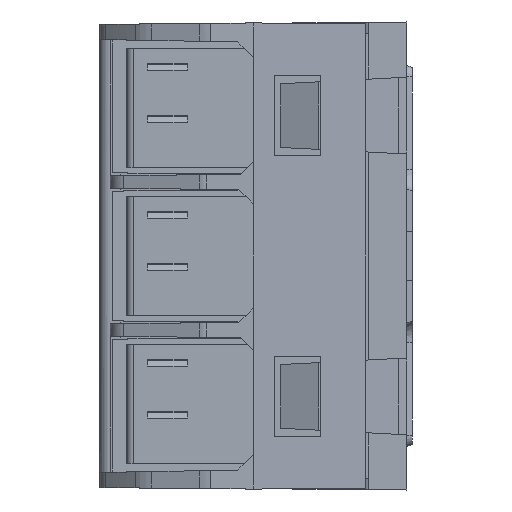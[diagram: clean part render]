
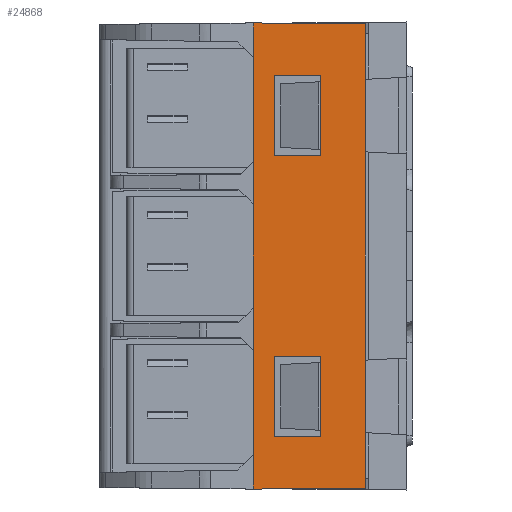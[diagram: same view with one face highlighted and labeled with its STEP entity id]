
A CAD part, left-side view. The second image highlights one B-rep face of the part: STEP entity #24868.
In plain terms, the highlighted planar face has unit normal (-1, -0.009, 0).
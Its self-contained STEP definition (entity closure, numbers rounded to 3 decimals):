
#1700=LINE('',#38494,#4517);
#1705=LINE('',#38503,#4522);
#1706=LINE('',#38505,#4523);
#1707=LINE('',#38506,#4524);
#1708=LINE('',#38508,#4525);
#1709=LINE('',#38509,#4526);
#1710=LINE('',#38512,#4527);
#1711=LINE('',#38514,#4528);
#1712=LINE('',#38516,#4529);
#1713=LINE('',#38517,#4530);
#1714=LINE('',#38520,#4531);
#1715=LINE('',#38522,#4532);
#1716=LINE('',#38524,#4533);
#1717=LINE('',#38525,#4534);
#4517=VECTOR('',#30489,1.);
#4522=VECTOR('',#30496,1.);
#4523=VECTOR('',#30497,1.);
#4524=VECTOR('',#30498,1.);
#4525=VECTOR('',#30499,1.);
#4526=VECTOR('',#30500,1.);
#4527=VECTOR('',#30501,1.);
#4528=VECTOR('',#30502,1.);
#4529=VECTOR('',#30503,1.);
#4530=VECTOR('',#30504,1.);
#4531=VECTOR('',#30505,1.);
#4532=VECTOR('',#30506,1.);
#4533=VECTOR('',#30507,1.);
#4534=VECTOR('',#30508,1.);
#6052=FACE_BOUND('',#9534,.T.);
#6053=FACE_BOUND('',#9535,.T.);
#7020=PLANE('',#26379);
#8177=FACE_OUTER_BOUND('',#9533,.T.);
#9533=EDGE_LOOP('',(#19640,#19641,#19642,#19643,#19644,#19645));
#9534=EDGE_LOOP('',(#19646,#19647,#19648,#19649));
#9535=EDGE_LOOP('',(#19650,#19651,#19652,#19653));
#11566=VERTEX_POINT('',#38420);
#11579=VERTEX_POINT('',#38447);
#11597=VERTEX_POINT('',#38493);
#11600=VERTEX_POINT('',#38502);
#11601=VERTEX_POINT('',#38504);
#11602=VERTEX_POINT('',#38507);
#11603=VERTEX_POINT('',#38510);
#11604=VERTEX_POINT('',#38511);
#11605=VERTEX_POINT('',#38513);
#11606=VERTEX_POINT('',#38515);
#11607=VERTEX_POINT('',#38518);
#11608=VERTEX_POINT('',#38519);
#11609=VERTEX_POINT('',#38521);
#11610=VERTEX_POINT('',#38523);
#14468=EDGE_CURVE('',#11597,#11566,#1700,.T.);
#14473=EDGE_CURVE('',#11600,#11566,#1705,.T.);
#14474=EDGE_CURVE('',#11597,#11601,#1706,.T.);
#14475=EDGE_CURVE('',#11579,#11601,#1707,.T.);
#14476=EDGE_CURVE('',#11579,#11602,#1708,.T.);
#14477=EDGE_CURVE('',#11602,#11600,#1709,.T.);
#14478=EDGE_CURVE('',#11603,#11604,#1710,.T.);
#14479=EDGE_CURVE('',#11604,#11605,#1711,.T.);
#14480=EDGE_CURVE('',#11605,#11606,#1712,.T.);
#14481=EDGE_CURVE('',#11606,#11603,#1713,.T.);
#14482=EDGE_CURVE('',#11607,#11608,#1714,.T.);
#14483=EDGE_CURVE('',#11608,#11609,#1715,.T.);
#14484=EDGE_CURVE('',#11609,#11610,#1716,.T.);
#14485=EDGE_CURVE('',#11610,#11607,#1717,.T.);
#19640=ORIENTED_EDGE('',*,*,#14473,.T.);
#19641=ORIENTED_EDGE('',*,*,#14468,.F.);
#19642=ORIENTED_EDGE('',*,*,#14474,.T.);
#19643=ORIENTED_EDGE('',*,*,#14475,.F.);
#19644=ORIENTED_EDGE('',*,*,#14476,.T.);
#19645=ORIENTED_EDGE('',*,*,#14477,.T.);
#19646=ORIENTED_EDGE('',*,*,#14478,.T.);
#19647=ORIENTED_EDGE('',*,*,#14479,.T.);
#19648=ORIENTED_EDGE('',*,*,#14480,.T.);
#19649=ORIENTED_EDGE('',*,*,#14481,.T.);
#19650=ORIENTED_EDGE('',*,*,#14482,.T.);
#19651=ORIENTED_EDGE('',*,*,#14483,.T.);
#19652=ORIENTED_EDGE('',*,*,#14484,.T.);
#19653=ORIENTED_EDGE('',*,*,#14485,.T.);
#24868=ADVANCED_FACE('',(#8177,#6052,#6053),#7020,.T.);
#26379=AXIS2_PLACEMENT_3D('',#38501,#30494,#30495);
#30489=DIRECTION('',(-0.009,1.,-0.009));
#30494=DIRECTION('center_axis',(-1.,-0.009,
0.));
#30495=DIRECTION('ref_axis',(0.,0.,
1.));
#30496=DIRECTION('',(0.,0.,-1.));
#30497=DIRECTION('',(0.,0.,1.));
#30498=DIRECTION('',(0.009,-1.,-0.009));
#30499=DIRECTION('',(0.,0.,-1.));
#30500=DIRECTION('',(0.,0.,-1.));
#30501=DIRECTION('',(-0.009,1.,0.));
#30502=DIRECTION('',(0.,0.,1.));
#30503=DIRECTION('',(0.009,-1.,0.));
#30504=DIRECTION('',(0.,0.,-1.));
#30505=DIRECTION('',(0.009,-1.,0.));
#30506=DIRECTION('',(0.,0.,-1.));
#30507=DIRECTION('',(-0.009,1.,0.));
#30508=DIRECTION('',(0.,0.,1.));
#38420=CARTESIAN_POINT('',(-49.694,14.778,-22.411));
#38447=CARTESIAN_POINT('',(-49.694,14.778,22.411));
#38493=CARTESIAN_POINT('',(-49.6,4.,-22.317));
#38494=CARTESIAN_POINT('',(-49.638,8.337,-22.355));
#38501=CARTESIAN_POINT('Origin',(-49.683,13.498,22.4));
#38502=CARTESIAN_POINT('',(-49.694,14.778,-19.076));
#38503=CARTESIAN_POINT('',(-49.694,14.778,11.2));
#38504=CARTESIAN_POINT('',(-49.6,4.,22.317));
#38505=CARTESIAN_POINT('',(-49.6,4.,11.2));
#38506=CARTESIAN_POINT('',(-49.681,13.282,22.398));
#38507=CARTESIAN_POINT('',(-49.694,14.778,19.076));
#38508=CARTESIAN_POINT('',(-49.694,14.778,11.2));
#38509=CARTESIAN_POINT('',(-49.694,14.778,11.2));
#38510=CARTESIAN_POINT('',(-49.638,8.3,9.631));
#38511=CARTESIAN_POINT('',(-49.676,12.739,9.63));
#38512=CARTESIAN_POINT('',(-49.677,12.84,9.63));
#38513=CARTESIAN_POINT('',(-49.676,12.739,17.37));
#38514=CARTESIAN_POINT('',(-49.676,12.739,19.7));
#38515=CARTESIAN_POINT('',(-49.638,8.3,17.369));
#38516=CARTESIAN_POINT('',(-49.661,10.992,17.369));
#38517=CARTESIAN_POINT('',(-49.638,8.3,16.2));
#38518=CARTESIAN_POINT('',(-49.676,12.739,-9.63));
#38519=CARTESIAN_POINT('',(-49.638,8.3,-9.631));
#38520=CARTESIAN_POINT('',(-49.661,10.994,-9.631));
#38521=CARTESIAN_POINT('',(-49.638,8.3,-17.369));
#38522=CARTESIAN_POINT('',(-49.638,8.3,2.7));
#38523=CARTESIAN_POINT('',(-49.676,12.739,-17.37));
#38524=CARTESIAN_POINT('',(-49.677,12.838,-17.37));
#38525=CARTESIAN_POINT('',(-49.676,12.739,6.2));
